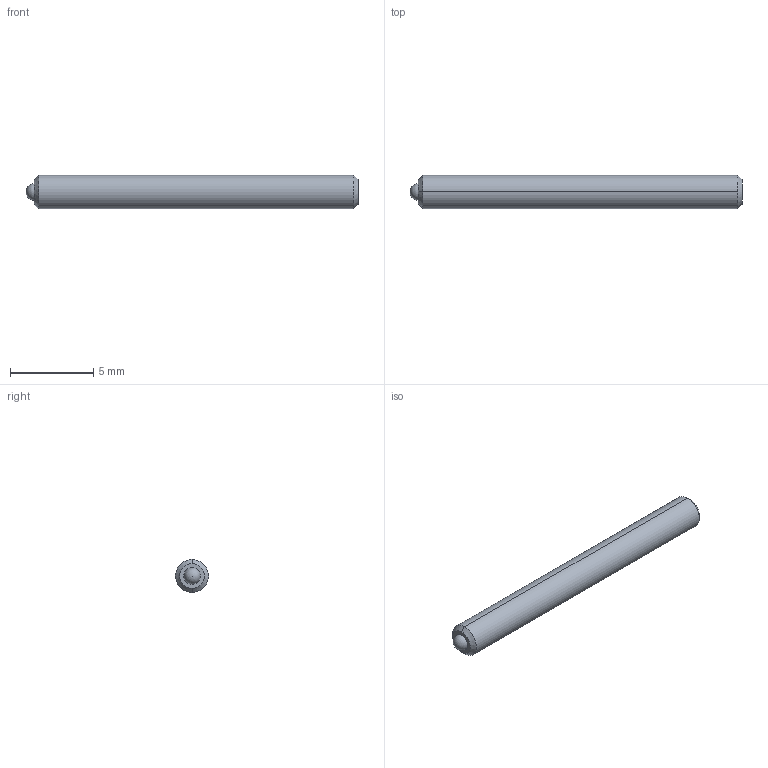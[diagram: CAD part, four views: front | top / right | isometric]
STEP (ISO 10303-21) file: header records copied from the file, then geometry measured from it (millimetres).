
FILE_DESCRIPTION (( 'STEP AP214' ), '1' );
FILE_NAME ('TS2-25-20.STEP', '2013-02-17T16:49:25', ( 'workpc' ), ( 'Microsoft' ), 'SwSTEP 2.0', 'SolidWorks 2013', '' );
FILE_SCHEMA (( 'AUTOMOTIVE_DESIGN' ));
Length unit declared in the file: millimetre
Products named in the file (1): TS2-25-20
Bounding box: 20 x 2 x 2 mm (x, y, z)
Volume: 59.6 mm3; surface area: 137.7 mm2
Topology: 2 solids, 2 shells, 20 faces, 45 edges, 29 vertices
Faces by surface type: plane 10, cylinder 4, cone 4, sphere 2
Entity records: 587 total; most frequent: DIRECTION 96, CARTESIAN_POINT 87, ORIENTED_EDGE 80, EDGE_CURVE 40, AXIS2_PLACEMENT_3D 35, VERTEX_POINT 26, VECTOR 26, LINE 26
